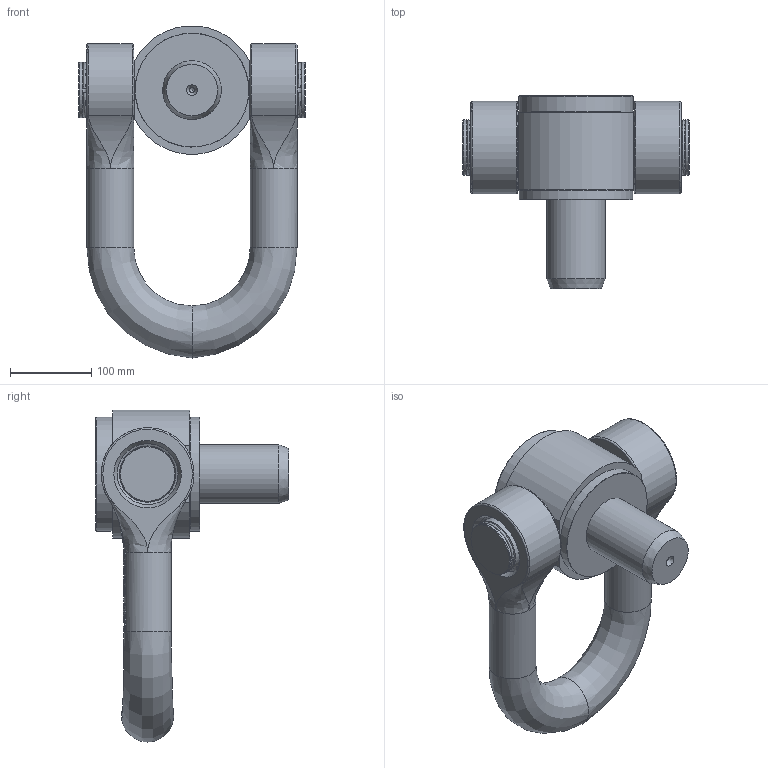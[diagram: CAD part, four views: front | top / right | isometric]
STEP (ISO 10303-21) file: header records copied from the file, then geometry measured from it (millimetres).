
FILE_DESCRIPTION(/* description */ (''),/* implementation_level */ '2;1');
FILE_NAME(/* name */ 'W:\CODIPRO\DOCUMENTS\Plans A NE PAS DIFFUSER !!!\Fichiers STEP (3D)\Gamme 2018\Produits GRADUP\MEGA DSS + UP\MEGA DSS + M72 UP.stp',/* time_stamp */ '2023-05-30T13:02:22+02:00',/* author */ ('mmagerotte'),/* organization */ (''),/* preprocessor_version */ 'ST-DEVELOPER v17',/* originating_system */ 'Autodesk Inventor 2019',/* authorisation */ '');
FILE_SCHEMA (('AUTOMOTIVE_DESIGN { 1 0 10303 214 3 1 1 }'));
Length unit declared in the file: millimetre
Products named in the file (7): MEGA DSS + M72 UP; DSS_N5X110; DSM_N5X110; DSM_N5; DIN 7993 - A 65; DSA_M72X217_UP+; DSE_M72
Assembly tree (7 placements, depth 3):
  MEGA DSS + M72 UP
    DSS_N5X110
      DSM_N5X110
      DSM_N5
      DIN 7993 - A 65  x2
    DSA_M72X217_UP+
    DSE_M72
Bounding box: 278 x 238 x 407.71 mm (x, y, z)
Volume: 5606606.3 mm3; surface area: 482137.4 mm2
Topology: 6 solids, 6 shells, 801 faces, 2231 edges, 1484 vertices
Faces by surface type: plane 408, bspline 273, cylinder 79, cone 27, torus 14
Full cylindrical faces by diameter (mm): 6.3 x1, 57.5 x2, 64 x1, 68 x4, 69.2 x2, 72 x2, 78.5 x1, 110 x4, 140 x2
Entity records: 31760 total; most frequent: CARTESIAN_POINT 12854, ORIENTED_EDGE 4450, DIRECTION 2859, EDGE_CURVE 2225, VERTEX_POINT 1480, LINE 1203, VECTOR 1203, EDGE_LOOP 849
